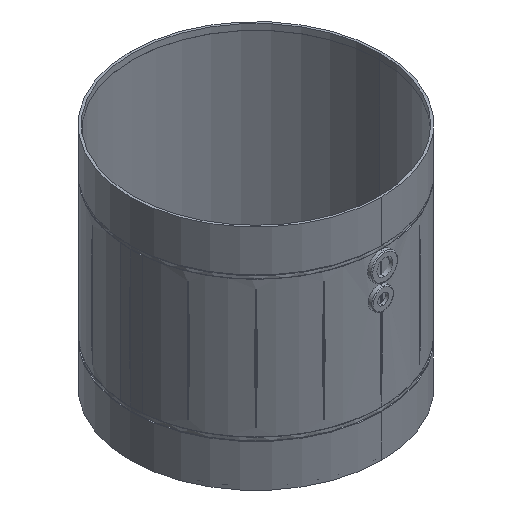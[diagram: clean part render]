
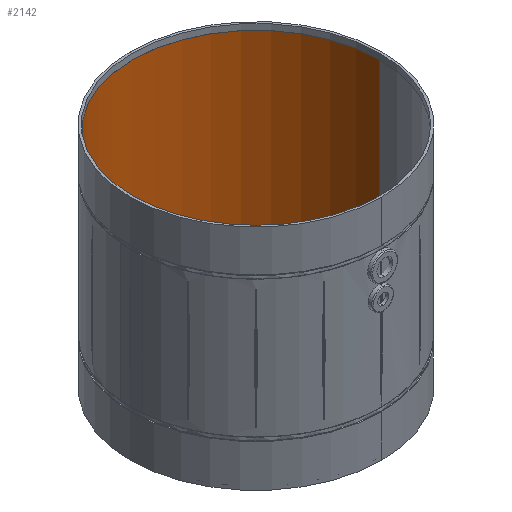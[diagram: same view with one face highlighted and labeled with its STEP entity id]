
A CAD part, isometric view. The second image highlights one B-rep face of the part: STEP entity #2142.
In plain terms, the highlighted cylindrical face has radius 73.158 mm (diameter 146.317 mm), a partial arc.
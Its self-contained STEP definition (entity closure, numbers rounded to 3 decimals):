
#168 = CARTESIAN_POINT ( 'NONE',  ( 73.158, 0., 171.85 ) ) ;
#228 = CARTESIAN_POINT ( 'NONE',  ( -73.158, 0., 42.129 ) ) ;
#766 = VERTEX_POINT ( 'NONE', #168 ) ;
#1077 = VERTEX_POINT ( 'NONE', #5066 ) ;
#1674 = CYLINDRICAL_SURFACE ( 'NONE', #4861, 73.158 ) ;
#1737 = VERTEX_POINT ( 'NONE', #3347 ) ;
#1823 = FACE_OUTER_BOUND ( 'NONE', #6145, .T. ) ;
#1832 = DIRECTION ( 'NONE',  ( 0., 0., 1. ) ) ;
#1858 = CARTESIAN_POINT ( 'NONE',  ( 73.158, 0., 40.341 ) ) ;
#2142 = ADVANCED_FACE ( 'NONE', ( #1823 ), #1674, .F. ) ;
#2218 = DIRECTION ( 'NONE',  ( 0., 0., 1. ) ) ;
#2714 = ORIENTED_EDGE ( 'NONE', *, *, #5163, .F. ) ;
#2724 = ORIENTED_EDGE ( 'NONE', *, *, #5562, .T. ) ;
#2874 = ORIENTED_EDGE ( 'NONE', *, *, #5197, .T. ) ;
#2944 = ORIENTED_EDGE ( 'NONE', *, *, #5416, .T. ) ;
#3182 = CIRCLE ( 'NONE', #4079, 73.158 ) ;
#3347 = CARTESIAN_POINT ( 'NONE',  ( -73.158, 0., 171.85 ) ) ;
#3353 = VERTEX_POINT ( 'NONE', #228 ) ;
#3402 = CIRCLE ( 'NONE', #4117, 73.158 ) ;
#3800 = DIRECTION ( 'NONE',  ( 0., 0., 1. ) ) ;
#3907 = CARTESIAN_POINT ( 'NONE',  ( -73.158, 0., 40.341 ) ) ;
#4003 = VECTOR ( 'NONE', #1832, 1000. ) ;
#4033 = LINE ( 'NONE', #1858, #4003 ) ;
#4079 = AXIS2_PLACEMENT_3D ( 'NONE', #6476, #6449, #6409 ) ;
#4117 = AXIS2_PLACEMENT_3D ( 'NONE', #5388, #5361, #5336 ) ;
#4173 = LINE ( 'NONE', #3907, #4269 ) ;
#4269 = VECTOR ( 'NONE', #3800, 1000. ) ;
#4861 = AXIS2_PLACEMENT_3D ( 'NONE', #6489, #2218, #5829 ) ;
#5066 = CARTESIAN_POINT ( 'NONE',  ( 73.158, 0., 42.129 ) ) ;
#5163 = EDGE_CURVE ( 'NONE', #3353, #1737, #4173, .T. ) ;
#5197 = EDGE_CURVE ( 'NONE', #1077, #766, #4033, .T. ) ;
#5336 = DIRECTION ( 'NONE',  ( 1., 0., 0. ) ) ;
#5361 = DIRECTION ( 'NONE',  ( 0., 0., 1. ) ) ;
#5388 = CARTESIAN_POINT ( 'NONE',  ( 0., 0., 171.85 ) ) ;
#5416 = EDGE_CURVE ( 'NONE', #766, #1737, #3402, .T. ) ;
#5562 = EDGE_CURVE ( 'NONE', #3353, #1077, #3182, .T. ) ;
#5829 = DIRECTION ( 'NONE',  ( 1., 0., 0. ) ) ;
#6145 = EDGE_LOOP ( 'NONE', ( #2714, #2724, #2874, #2944 ) ) ;
#6409 = DIRECTION ( 'NONE',  ( 0., 1., 0. ) ) ;
#6449 = DIRECTION ( 'NONE',  ( 0., 0., -1. ) ) ;
#6476 = CARTESIAN_POINT ( 'NONE',  ( 0., 0., 42.129 ) ) ;
#6489 = CARTESIAN_POINT ( 'NONE',  ( 0., 0., 40.341 ) ) ;
